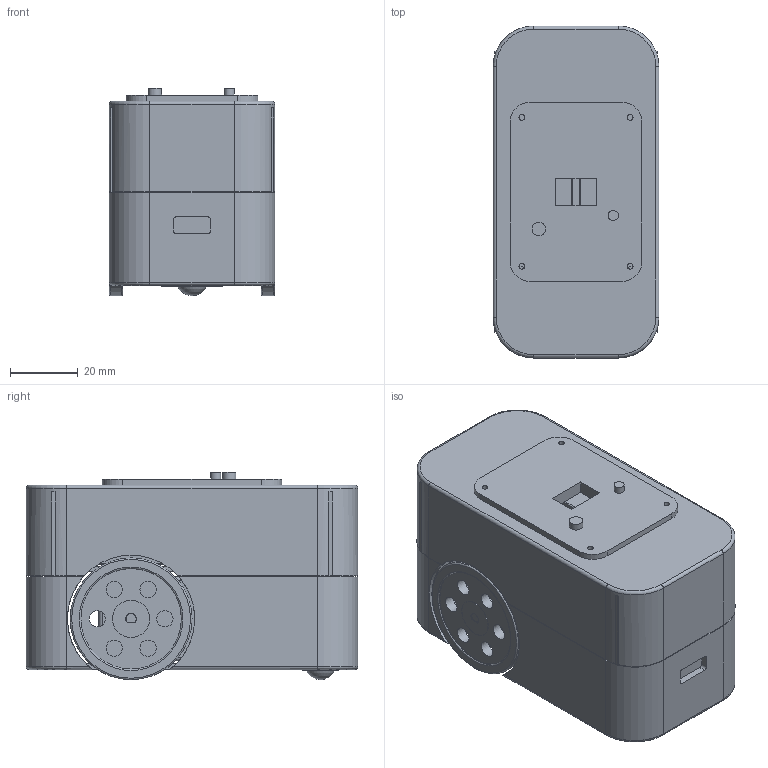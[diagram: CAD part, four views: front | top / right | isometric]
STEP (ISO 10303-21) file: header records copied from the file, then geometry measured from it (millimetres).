
FILE_DESCRIPTION(('Open CASCADE Model'),'2;1');
FILE_NAME('MB01_CommonBase','2026-09-29T13:43:31',('Author'),( 'Open CASCADE'),'Open CASCADE STEP processor 8.0','build123d', 'Unknown');
FILE_SCHEMA(('AUTOMOTIVE_DESIGN { 1 0 10303 214 1 1 1 1 }'));
Length unit declared in the file: millimetre
Products named in the file (24): MB01_CommonBase; 01_bottom_shell; 02_top_shell; 03_battery_tray; 04_electronics_deck; 10_motor_L; 12_wheel_hub_L; 13_tire_L; 10_motor_R; 12_wheel_hub_R; 13_tire_R; 11_motor_bridge_clamp_0; 11_motor_bridge_clamp_1; 14_caster_housing; 15_caster_ball; 20_battery_1200mAh; 21_ESP32_S3_Plus; 22_DRV8833; 23_IMU_LSM6DS3TRC; 24_audio_amplifier; 25_USB_C_charger; 26_5V_boost; 27_optional_ToF; 28_switch_reserve
Assembly tree (23 placements, depth 2):
  MB01_CommonBase
    01_bottom_shell
    02_top_shell
    03_battery_tray
    04_electronics_deck
    10_motor_L
    12_wheel_hub_L
    13_tire_L
    10_motor_R
    12_wheel_hub_R
    13_tire_R
    11_motor_bridge_clamp_0
    11_motor_bridge_clamp_1
    14_caster_housing
    15_caster_ball
    20_battery_1200mAh
    21_ESP32_S3_Plus
    22_DRV8833
    23_IMU_LSM6DS3TRC
    24_audio_amplifier
    25_USB_C_charger
    26_5V_boost
    27_optional_ToF
    28_switch_reserve
Bounding box: 49 x 98 x 61.3 mm (x, y, z)
Volume: 133505.5 mm3; surface area: 94705.1 mm2
Topology: 23 solids, 23 shells, 967 faces, 2376 edges, 1336 vertices
Faces by surface type: plane 415, cylinder 394, sphere 142, torus 16
Full cylindrical faces by diameter (mm): 1.7 x8, 2.3 x8, 3 x1, 4 x1, 4.4 x4, 4.8 x12, 6 x4, 6.6 x4, 11 x4, 29.7 x2, 30 x2, 36 x2
Entity records: 56527 total; most frequent: CARTESIAN_POINT 11581, DIRECTION 8020, ORIENTED_EDGE 4464, PCURVE 4464, DEFINITIONAL_REPRESENTATION 4464, LINE 4082, VECTOR 4082, EDGE_CURVE 2232
